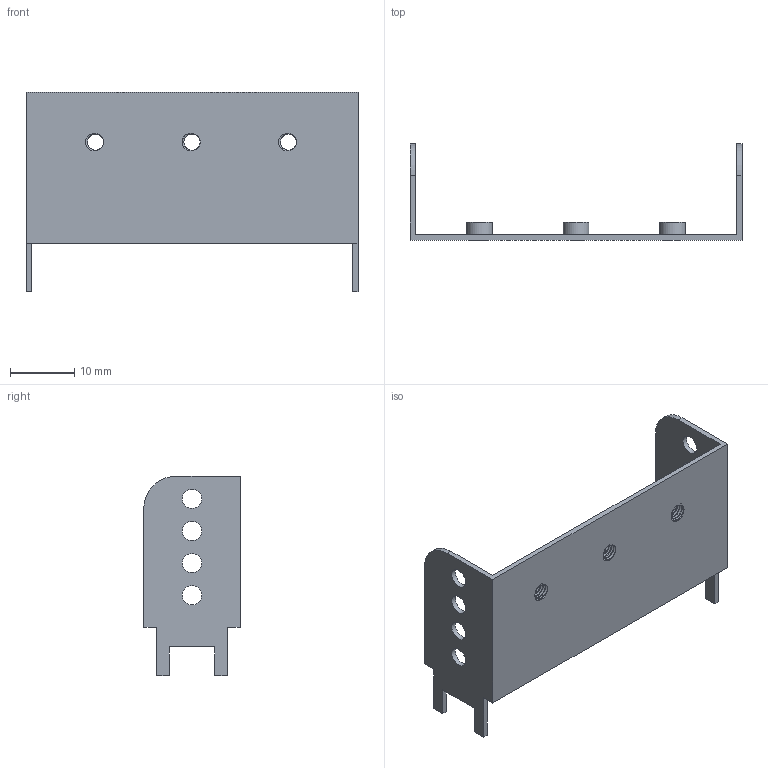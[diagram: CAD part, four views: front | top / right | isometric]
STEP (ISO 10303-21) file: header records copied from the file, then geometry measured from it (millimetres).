
FILE_DESCRIPTION(/* description */ ('','CAx-IF Rec.Pracs.---Representation and Presentation of Product Manufacturing Information (PMI)---4.0---2014-10-13'),/* implementation_level */ '2;1');
FILE_NAME(/* name */ 'TypeC-2-0.8.step',/* time_stamp */ '2025-01-27T02:27:50+09:00',/* author */ (''),/* organization */ (''),/* preprocessor_version */ 'ST-DEVELOPER v20',/* originating_system */ 'Autodesk Translation Framework v13.20.0.188',/* authorisation */ '');
FILE_SCHEMA (('AP242_MANAGED_MODEL_BASED_3D_ENGINEERING_MIM_LF { 1 0 10303 442 1 1 4 }'));
Length unit declared in the file: millimetre
Products named in the file (1): (未保存)
Bounding box: 51.6 x 15 x 31 mm (x, y, z)
Volume: 1556.9 mm3; surface area: 4250.2 mm2
Topology: 1 solids, 1 shells, 93 faces, 264 edges, 176 vertices
Faces by surface type: cylinder 52, plane 29, bspline 12
Full cylindrical faces by diameter (mm): 2.529 x12, 3 x8, 3.086 x15, 4 x3
Entity records: 6487 total; most frequent: CARTESIAN_POINT 4200, ORIENTED_EDGE 528, DIRECTION 358, EDGE_CURVE 264, VERTEX_POINT 176, AXIS2_PLACEMENT_3D 120, EDGE_LOOP 118, LINE 118
